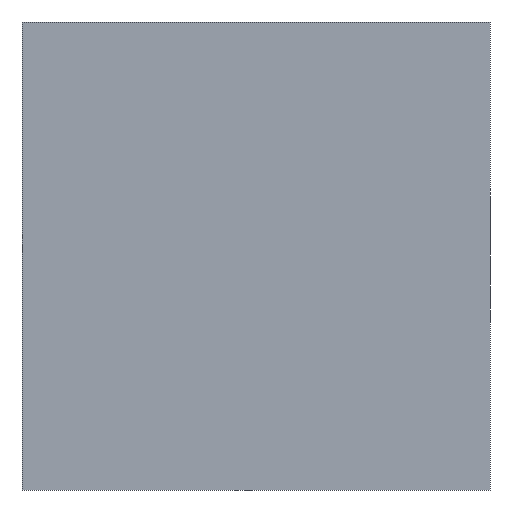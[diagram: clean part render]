
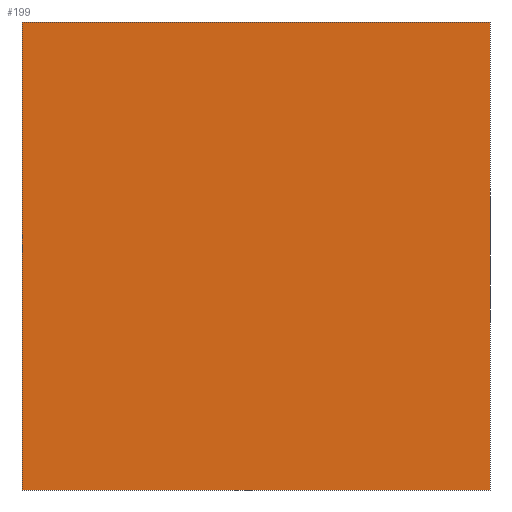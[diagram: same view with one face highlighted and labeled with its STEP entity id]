
A CAD part, front view. The second image highlights one B-rep face of the part: STEP entity #199.
In plain terms, the highlighted planar face has unit normal (0, -1, 0).
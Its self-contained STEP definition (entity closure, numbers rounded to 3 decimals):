
#21 = EDGE_CURVE('',#22,#24,#26,.T.);
#22 = VERTEX_POINT('',#23);
#23 = CARTESIAN_POINT('',(84.,-82.,84.));
#24 = VERTEX_POINT('',#25);
#25 = CARTESIAN_POINT('',(84.,-82.,96.));
#26 = SURFACE_CURVE('',#27,(#31,#43),.PCURVE_S1.);
#27 = LINE('',#28,#29);
#28 = CARTESIAN_POINT('',(84.,-82.,84.));
#29 = VECTOR('',#30,1.);
#30 = DIRECTION('',(0.,0.,1.));
#31 = PCURVE('',#32,#37);
#32 = PLANE('',#33);
#33 = AXIS2_PLACEMENT_3D('',#34,#35,#36);
#34 = CARTESIAN_POINT('',(84.,-82.,84.));
#35 = DIRECTION('',(1.,0.,0.));
#36 = DIRECTION('',(0.,0.,1.));
#37 = DEFINITIONAL_REPRESENTATION('',(#38),#42);
#38 = LINE('',#39,#40);
#39 = CARTESIAN_POINT('',(0.,0.));
#40 = VECTOR('',#41,1.);
#41 = DIRECTION('',(1.,0.));
#42 = ( GEOMETRIC_REPRESENTATION_CONTEXT(2) 
PARAMETRIC_REPRESENTATION_CONTEXT() REPRESENTATION_CONTEXT('2D SPACE',''
  ) );
#43 = PCURVE('',#44,#49);
#44 = PLANE('',#45);
#45 = AXIS2_PLACEMENT_3D('',#46,#47,#48);
#46 = CARTESIAN_POINT('',(84.,-82.,84.));
#47 = DIRECTION('',(0.,1.,0.));
#48 = DIRECTION('',(0.,0.,1.));
#49 = DEFINITIONAL_REPRESENTATION('',(#50),#54);
#50 = LINE('',#51,#52);
#51 = CARTESIAN_POINT('',(0.,0.));
#52 = VECTOR('',#53,1.);
#53 = DIRECTION('',(1.,0.));
#54 = ( GEOMETRIC_REPRESENTATION_CONTEXT(2) 
PARAMETRIC_REPRESENTATION_CONTEXT() REPRESENTATION_CONTEXT('2D SPACE',''
  ) );
#72 = PLANE('',#73);
#73 = AXIS2_PLACEMENT_3D('',#74,#75,#76);
#74 = CARTESIAN_POINT('',(84.,-82.,84.));
#75 = DIRECTION('',(0.,0.,1.));
#76 = DIRECTION('',(1.,0.,0.));
#126 = PLANE('',#127);
#127 = AXIS2_PLACEMENT_3D('',#128,#129,#130);
#128 = CARTESIAN_POINT('',(84.,-82.,96.));
#129 = DIRECTION('',(0.,0.,1.));
#130 = DIRECTION('',(1.,0.,0.));
#199 = ADVANCED_FACE('',(#200),#44,.F.);
#200 = FACE_BOUND('',#201,.F.);
#201 = EDGE_LOOP('',(#202,#225,#226,#249));
#202 = ORIENTED_EDGE('',*,*,#203,.F.);
#203 = EDGE_CURVE('',#22,#204,#206,.T.);
#204 = VERTEX_POINT('',#205);
#205 = CARTESIAN_POINT('',(96.,-82.,84.));
#206 = SURFACE_CURVE('',#207,(#211,#218),.PCURVE_S1.);
#207 = LINE('',#208,#209);
#208 = CARTESIAN_POINT('',(84.,-82.,84.));
#209 = VECTOR('',#210,1.);
#210 = DIRECTION('',(1.,0.,0.));
#211 = PCURVE('',#44,#212);
#212 = DEFINITIONAL_REPRESENTATION('',(#213),#217);
#213 = LINE('',#214,#215);
#214 = CARTESIAN_POINT('',(0.,0.));
#215 = VECTOR('',#216,1.);
#216 = DIRECTION('',(0.,1.));
#217 = ( GEOMETRIC_REPRESENTATION_CONTEXT(2) 
PARAMETRIC_REPRESENTATION_CONTEXT() REPRESENTATION_CONTEXT('2D SPACE',''
  ) );
#218 = PCURVE('',#72,#219);
#219 = DEFINITIONAL_REPRESENTATION('',(#220),#224);
#220 = LINE('',#221,#222);
#221 = CARTESIAN_POINT('',(0.,0.));
#222 = VECTOR('',#223,1.);
#223 = DIRECTION('',(1.,0.));
#224 = ( GEOMETRIC_REPRESENTATION_CONTEXT(2) 
PARAMETRIC_REPRESENTATION_CONTEXT() REPRESENTATION_CONTEXT('2D SPACE',''
  ) );
#225 = ORIENTED_EDGE('',*,*,#21,.T.);
#226 = ORIENTED_EDGE('',*,*,#227,.T.);
#227 = EDGE_CURVE('',#24,#228,#230,.T.);
#228 = VERTEX_POINT('',#229);
#229 = CARTESIAN_POINT('',(96.,-82.,96.));
#230 = SURFACE_CURVE('',#231,(#235,#242),.PCURVE_S1.);
#231 = LINE('',#232,#233);
#232 = CARTESIAN_POINT('',(84.,-82.,96.));
#233 = VECTOR('',#234,1.);
#234 = DIRECTION('',(1.,0.,0.));
#235 = PCURVE('',#44,#236);
#236 = DEFINITIONAL_REPRESENTATION('',(#237),#241);
#237 = LINE('',#238,#239);
#238 = CARTESIAN_POINT('',(12.,0.));
#239 = VECTOR('',#240,1.);
#240 = DIRECTION('',(0.,1.));
#241 = ( GEOMETRIC_REPRESENTATION_CONTEXT(2) 
PARAMETRIC_REPRESENTATION_CONTEXT() REPRESENTATION_CONTEXT('2D SPACE',''
  ) );
#242 = PCURVE('',#126,#243);
#243 = DEFINITIONAL_REPRESENTATION('',(#244),#248);
#244 = LINE('',#245,#246);
#245 = CARTESIAN_POINT('',(0.,0.));
#246 = VECTOR('',#247,1.);
#247 = DIRECTION('',(1.,0.));
#248 = ( GEOMETRIC_REPRESENTATION_CONTEXT(2) 
PARAMETRIC_REPRESENTATION_CONTEXT() REPRESENTATION_CONTEXT('2D SPACE',''
  ) );
#249 = ORIENTED_EDGE('',*,*,#250,.F.);
#250 = EDGE_CURVE('',#204,#228,#251,.T.);
#251 = SURFACE_CURVE('',#252,(#256,#263),.PCURVE_S1.);
#252 = LINE('',#253,#254);
#253 = CARTESIAN_POINT('',(96.,-82.,84.));
#254 = VECTOR('',#255,1.);
#255 = DIRECTION('',(0.,0.,1.));
#256 = PCURVE('',#44,#257);
#257 = DEFINITIONAL_REPRESENTATION('',(#258),#262);
#258 = LINE('',#259,#260);
#259 = CARTESIAN_POINT('',(0.,12.));
#260 = VECTOR('',#261,1.);
#261 = DIRECTION('',(1.,0.));
#262 = ( GEOMETRIC_REPRESENTATION_CONTEXT(2) 
PARAMETRIC_REPRESENTATION_CONTEXT() REPRESENTATION_CONTEXT('2D SPACE',''
  ) );
#263 = PCURVE('',#264,#269);
#264 = PLANE('',#265);
#265 = AXIS2_PLACEMENT_3D('',#266,#267,#268);
#266 = CARTESIAN_POINT('',(96.,-82.,84.));
#267 = DIRECTION('',(1.,0.,0.));
#268 = DIRECTION('',(0.,0.,1.));
#269 = DEFINITIONAL_REPRESENTATION('',(#270),#274);
#270 = LINE('',#271,#272);
#271 = CARTESIAN_POINT('',(0.,0.));
#272 = VECTOR('',#273,1.);
#273 = DIRECTION('',(1.,0.));
#274 = ( GEOMETRIC_REPRESENTATION_CONTEXT(2) 
PARAMETRIC_REPRESENTATION_CONTEXT() REPRESENTATION_CONTEXT('2D SPACE',''
  ) );
